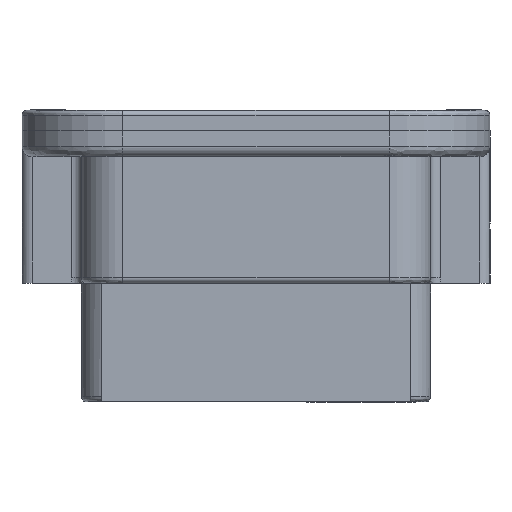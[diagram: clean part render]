
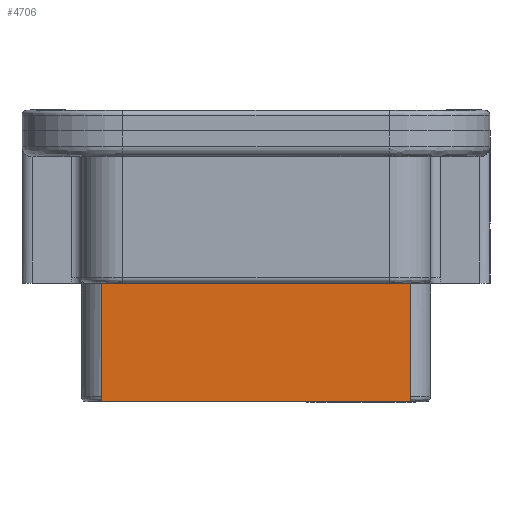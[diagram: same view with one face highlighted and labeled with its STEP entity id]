
A CAD part, left-side view. The second image highlights one B-rep face of the part: STEP entity #4706.
In plain terms, the highlighted planar face has unit normal (-1, 0, 0) as drawn and (0, 1, 0) by its records, which use the part's own axes.
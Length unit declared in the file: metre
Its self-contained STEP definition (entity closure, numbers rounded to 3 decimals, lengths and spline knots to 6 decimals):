
#260 = ORIENTED_EDGE ( 'NONE', *, *, #4044, .F. ) ;
#371 = CARTESIAN_POINT ( 'NONE',  ( 0., 0.023, -0.023 ) ) ;
#576 = EDGE_LOOP ( 'NONE', ( #12277, #1117, #30453, #260 ) ) ;
#1117 = ORIENTED_EDGE ( 'NONE', *, *, #27586, .T. ) ;
#1842 = DIRECTION ( 'NONE',  ( 0., 0., 1. ) ) ;
#1915 = CARTESIAN_POINT ( 'NONE',  ( -0.029991, 0.023, 0. ) ) ;
#2736 = VECTOR ( 'NONE', #10029, 1. ) ;
#3092 = VERTEX_POINT ( 'NONE', #1915 ) ;
#3314 = VERTEX_POINT ( 'NONE', #20399 ) ;
#3334 = CARTESIAN_POINT ( 'NONE',  ( -0.029991, 0.023, -0.023 ) ) ;
#3488 = LINE ( 'NONE', #3334, #15315 ) ;
#4044 = EDGE_CURVE ( 'NONE', #3314, #3092, #23367, .T. ) ;
#4706 = ADVANCED_FACE ( 'NONE', ( #8339 ), #10716, .F. ) ;
#8021 = EDGE_CURVE ( 'NONE', #25701, #3314, #23369, .T. ) ;
#8339 = FACE_OUTER_BOUND ( 'NONE', #576, .T. ) ;
#10029 = DIRECTION ( 'NONE',  ( -1., 0., 0. ) ) ;
#10716 = PLANE ( 'NONE',  #23827 ) ;
#10724 = CARTESIAN_POINT ( 'NONE',  ( 0.029991, 0.023, -0.023 ) ) ;
#11491 = DIRECTION ( 'NONE',  ( -1., 0., 0. ) ) ;
#12277 = ORIENTED_EDGE ( 'NONE', *, *, #8021, .F. ) ;
#12937 = CARTESIAN_POINT ( 'NONE',  ( 0.028991, 0.023, -0.023 ) ) ;
#13727 = VECTOR ( 'NONE', #11491, 1. ) ;
#15315 = VECTOR ( 'NONE', #20571, 1. ) ;
#17993 = DIRECTION ( 'NONE',  ( 0., -1., 0. ) ) ;
#20399 = CARTESIAN_POINT ( 'NONE',  ( 0.029991, 0.023, 0. ) ) ;
#20571 = DIRECTION ( 'NONE',  ( 0., 0., 1. ) ) ;
#22064 = LINE ( 'NONE', #371, #2736 ) ;
#22846 = CARTESIAN_POINT ( 'NONE',  ( -0.029991, 0.023, -0.023 ) ) ;
#23367 = LINE ( 'NONE', #28255, #13727 ) ;
#23369 = LINE ( 'NONE', #26048, #27844 ) ;
#23827 = AXIS2_PLACEMENT_3D ( 'NONE', #12937, #17993, #27645 ) ;
#25654 = EDGE_CURVE ( 'NONE', #27689, #3092, #3488, .T. ) ;
#25701 = VERTEX_POINT ( 'NONE', #10724 ) ;
#26048 = CARTESIAN_POINT ( 'NONE',  ( 0.029991, 0.023, -0.023 ) ) ;
#27586 = EDGE_CURVE ( 'NONE', #25701, #27689, #22064, .T. ) ;
#27645 = DIRECTION ( 'NONE',  ( 0., 0., -1. ) ) ;
#27689 = VERTEX_POINT ( 'NONE', #22846 ) ;
#27844 = VECTOR ( 'NONE', #1842, 1. ) ;
#28255 = CARTESIAN_POINT ( 'NONE',  ( 0.028991, 0.023, 0. ) ) ;
#30453 = ORIENTED_EDGE ( 'NONE', *, *, #25654, .T. ) ;
